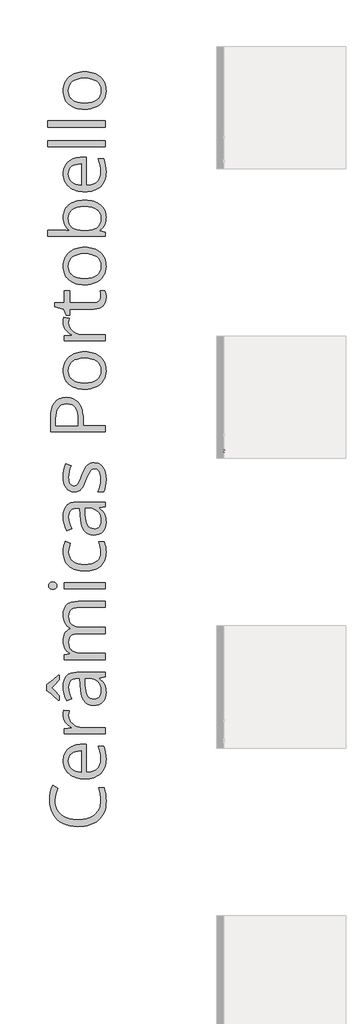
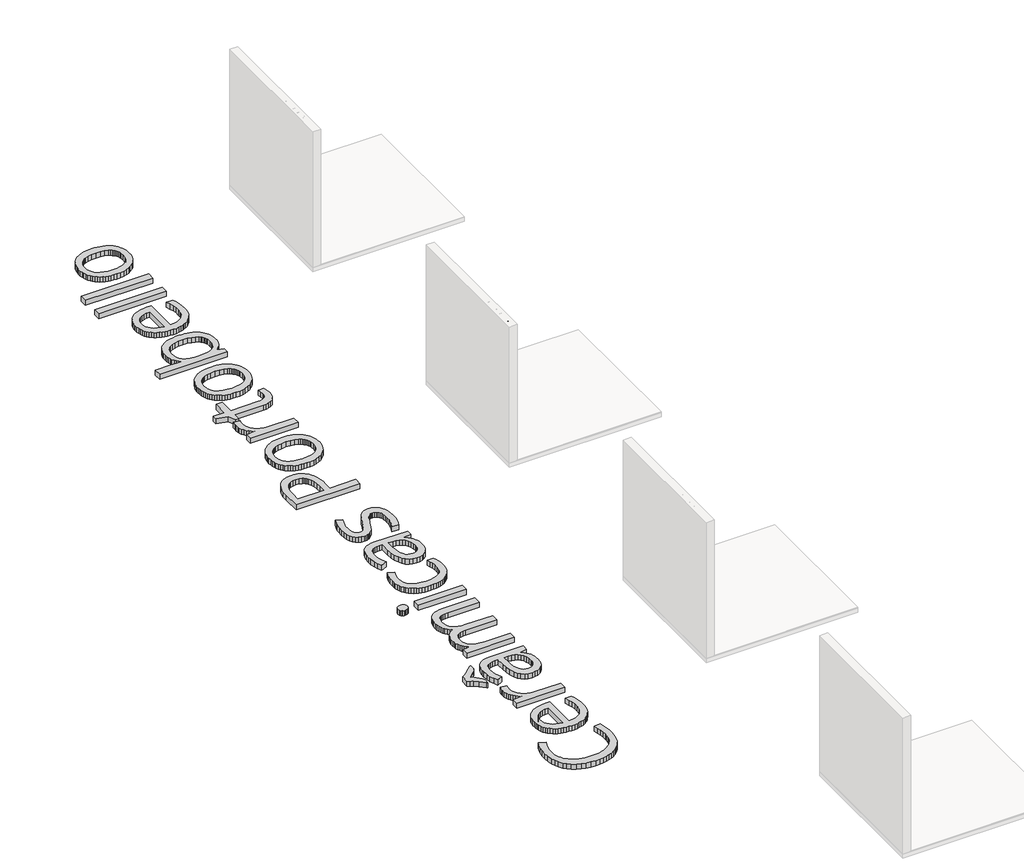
# One storey, part 7 of 14: 2 proxies.
"""IFC4 building model written with IfcOpenShell, lengths in millimetres."""

from ifc_helpers import new_model, si_unit, frame, origin, origin_with_axes, place, context, project, spatial, polyline, outline, extrude, element, save

model = new_model("IFC4")

# Units and contexts
model_context = context("Model", 3, world=origin())
ifc_project = project(units=[si_unit("LENGTHUNIT", "METRE", prefix="MILLI")], contexts=[model_context])

# Site, building, storey
site = spatial("IfcSite", under=ifc_project)
building = spatial("IfcBuilding", under=site)
storey = spatial("IfcBuildingStorey", under=building, Name="PORTOBELLO - SHOWROOM", Elevation=0.0)

# Proxies
placement = place(None, origin())
element("IfcBuildingElementProxy", 1, Name="10mm Arial", ObjectType="10mm Arial", at=placement, inside=storey, context=model_context, shape_type="SweptSolid", body=[
    extrude(outline(polyline([(3702.0552811, 2558.2261649), (3702.0552811, 2658.6824751), (3715.4952367, 2658.6824751), (3767.9797347, 2579.0973368), (3767.9797347, 2658.6824751), (3780.5367734, 2658.6824751), (3780.5367734, 2558.2261649), (3767.0968179, 2558.2261649), (3714.6123199, 2637.8358287), (3714.6123199, 2558.2261649), (3702.0552811, 2558.2261649)])), frame((184113.9473279, 0.0, 0.0), z_axis=(1.0, 0.0, 0.0), x_axis=(0.0, 1.0, 0.0)), (0.0, 0.0, 1.0), 20.0),
    extrude(outline(polyline([(3848.0308568, 2558.2261649), (3848.0308568, 2570.905831), (3838.1961448, 2560.2188591), (3825.3693259, 2556.6565351), (3813.5603139, 2559.1581327), (3805.4178591, 2565.436652), (3801.6777254, 2574.6827529), (3800.9419614, 2586.3568748), (3800.9419614, 2631.9987677), (3813.4990002, 2631.9987677), (3813.4990002, 2592.2675122), (3814.2592897, 2579.4652188), (3819.2256966, 2571.9481634), (3828.582162, 2569.2135739), (3839.0667989, 2572.009477), (3845.9952431, 2579.6246343), (3848.0308568, 2593.6164129), (3848.0308568, 2631.9987677), (3860.5878956, 2631.9987677), (3860.5878956, 2558.2261649), (3848.0308568, 2558.2261649)])), frame((184113.9473279, 0.0, 0.0), z_axis=(1.0, 0.0, 0.0), x_axis=(0.0, 1.0, 0.0)), (0.0, 0.0, 1.0), 20.0),
    extrude(outline(polyline([(3923.3730894, 2558.2261649), (3923.3730894, 2570.0719652), (3915.0650877, 2560.0103926), (3903.5810381, 2556.6565351), (3888.0318924, 2561.5125774), (3877.0444835, 2575.0628976), (3873.1449344, 2595.0388899), (3876.7379152, 2615.027145), (3887.5045949, 2628.7859316), (3903.5319872, 2633.5683975), (3915.1080073, 2630.147095), (3923.3730894, 2621.2566134), (3923.3730894, 2658.6824751), (3935.9301282, 2658.6824751), (3935.9301282, 2558.2261649), (3923.3730894, 2558.2261649)]), holes=[polyline([(3885.7019731, 2595.0879409), (3887.1183188, 2583.7295843), (3891.3673559, 2575.6515088), (3897.541642, 2570.8230576), (3904.733735, 2569.2135739), (3911.9227623, 2570.7494812), (3917.9406986, 2575.3572032), (3922.0149917, 2583.122579), (3923.3730894, 2594.1314477), (3921.9904663, 2606.1673203), (3917.8425968, 2614.5121102), (3911.6713763, 2619.3865466), (3904.2187002, 2621.0113588), (3896.9530308, 2619.450926), (3890.9994739, 2614.7696276), (3887.0263483, 2606.7283403), (3885.7019731, 2595.0879409)])]), frame((184113.9473279, 0.0, 0.0), z_axis=(1.0, 0.0, 0.0), x_axis=(0.0, 1.0, 0.0)), (0.0, 0.0, 1.0), 20.0),
    extrude(outline(polyline([(4006.4163185, 2580.2009828), (4018.7281026, 2578.6313529), (4014.2920589, 2569.3545953), (4007.2133961, 2562.4200197), (3997.6515299, 2558.0974062), (3985.7658758, 2556.6565351), (3971.0322019, 2559.1428042), (3959.6953051, 2566.6016117), (3952.4664239, 2578.5485795), (3950.0567968, 2594.4993297), (3952.4909494, 2610.9865744), (3959.793407, 2623.3167526), (3970.9770196, 2631.0054863), (3985.0546373, 2633.5683975), (3998.6938623, 2631.0116177), (4009.5923664, 2623.3412781), (4016.7384741, 2611.0356253), (4019.1205101, 2594.5729061), (4019.0469337, 2591.1883917), (3962.6138356, 2591.1883917), (3964.787405, 2581.7890067), (3969.8365854, 2574.8789566), (3977.1237146, 2570.6299195), (3986.0111305, 2569.2135739), (3998.3229146, 2571.8377988), (4006.4163185, 2580.2009828)]), holes=[polyline([(3962.6138356, 2603.7454305), (4006.5634713, 2603.7454305), (4001.5357507, 2615.1252469), (3994.214899, 2619.5398308), (3985.0055864, 2621.0113588), (3969.5422798, 2616.314732), (3964.6770404, 2610.8240932), (3962.6138356, 2603.7454305)])]), frame((184113.9473279, 0.0, 0.0), z_axis=(1.0, 0.0, 0.0), x_axis=(0.0, 1.0, 0.0)), (0.0, 0.0, 1.0), 20.0),
])
element("IfcBuildingElementProxy", 2, Name="1200mm OpenSans", ObjectType="1200mm OpenSans", at=placement, inside=storey, context=model_context, shape_type="SweptSolid", body=[
    extrude(outline(polyline([(180385.3489244, -3979.3943887), (180387.4699717, -4027.5784991), (180393.8331136, -4073.15989), (180404.4383501, -4116.1385616), (180419.2856812, -4156.5145137), (180438.3751069, -4194.2877465), (180461.7066272, -4229.4582599), (180489.2802421, -4262.0260538), (180521.0959515, -4291.9911284), (180556.6016636, -4318.8633611), (180595.2452863, -4342.1526295), (180637.0268196, -4361.8589334), (180681.9462635, -4377.9822731), (180730.003618, -4390.5226483), (180781.1988832, -4399.4800592), (180835.5320589, -4404.8545058), (180893.0031453, -4406.6459879), (180951.9445991, -4404.9192921), (181007.4439283, -4399.7392044), (181059.501133, -4391.1057251), (181108.1162131, -4379.0188539), (181153.2891686, -4363.4785911), (181195.0199996, -4344.4849364), (181233.308706, -4322.0378901), (181268.1552879, -4296.1374519), (181299.2104625, -4267.0427673), (181326.1249471, -4235.0129813), (181348.8987418, -4200.0480941), (181367.5318465, -4162.1481055), (181382.0242613, -4121.3130156), (181392.3759862, -4077.5428244), (181398.5870211, -4030.8375319), (181400.6573661, -3981.1971381), (181397.8405702, -3916.0953517), (181389.3901826, -3846.6218981), (181375.3062032, -3772.7767773), (181355.588632, -3694.5599893), (181472.4067908, -3694.5599893), (181491.4933997, -3760.5856847), (181505.1266917, -3833.9125151), (181513.306667, -3914.5404804), (181516.0333254, -4002.4695806), (181513.4953923, -4066.9178703), (181505.881593, -4127.5803864), (181493.1919276, -4184.4571289), (181475.426396, -4237.5480976), (181452.5849982, -4286.8532927), (181424.6677342, -4332.3727142), (181391.674604, -4374.1063619), (181353.6056077, -4412.054236), (181310.8607302, -4445.8557866), (181263.8399566, -4475.1504638), (181212.5432868, -4499.9382675), (181156.9707209, -4520.2191979), (181097.1222588, -4535.9932548), (181032.9979005, -4547.2604383), (180964.5976462, -4554.0207484), (180891.9214957, -4556.2741851), (180801.0854621, -4551.9363195), (180716.0632952, -4538.9227225), (180636.8549951, -4517.2333942), (180563.4605616, -4486.8683346), (180497.0179803, -4448.3120326), (180438.6652369, -4402.0489771), (180388.4023312, -4348.079168), (180346.2292633, -4286.4026054), (180312.8671328, -4217.9769998), (180289.0370397, -4143.760062), (180274.7389838, -4063.7517918), (180269.9729652, -3977.9521892), (180273.9615481, -3886.462659), (180285.927297, -3800.9222017), (180305.8702119, -3721.3308173), (180333.7902926, -3647.6885058), (180449.5268018, -3706.8186849), (180421.4489805, -3774.9626109), (180401.3933938, -3843.1065368), (180389.3600418, -3911.2504628), (180385.3489244, -3979.3943887)])), origin_with_axes(), (0.0, 0.0, 1.0), 100.0),
    extrude(outline(polyline([(181516.0333254, -3071.5298092), (181514.106637, -3120.1533397), (181508.3265718, -3166.1516164), (181498.6931299, -3209.5246394), (181485.2063113, -3250.2724086), (181467.8661158, -3288.394924), (181446.6725436, -3323.8921857), (181421.6255946, -3356.7641936), (181392.7252689, -3387.0109478), (181360.405353, -3414.1366922), (181325.0996334, -3437.6456706), (181286.8081102, -3457.5378831), (181245.5307833, -3473.8133297), (181201.2676529, -3486.4720104), (181154.0187188, -3495.5139251), (181103.783981, -3500.939074), (181050.5634397, -3502.747457), (180996.8161575, -3501.0686466), (180945.9025719, -3496.0322156), (180897.822683, -3487.6381639), (180852.5764908, -3475.8864914), (180810.1639952, -3460.7771983), (180770.5851963, -3442.3102846), (180733.840094, -3420.4857501), (180699.9286884, -3395.3035949), (180669.465041, -3367.2933767), (180643.0632132, -3336.984653), (180620.723205, -3304.3774239), (180602.4450166, -3269.4716893), (180588.2286478, -3232.2674493), (180578.0740986, -3192.7647039), (180571.9813691, -3150.963453), (180569.9504593, -3106.8636967), (180571.7475751, -3065.5187668), (180577.1389224, -3026.393472), (180586.1245012, -2989.4878123), (180598.7043116, -2954.8017879), (180614.8783536, -2922.3353985), (180634.6466271, -2892.0886444), (180658.0091321, -2864.0615254), (180684.9658687, -2838.2540415), (180714.8689738, -2815.0999794), (180747.0705843, -2795.0331255), (180781.5707002, -2778.0534799), (180818.3693216, -2764.1610427), (180857.4664484, -2753.3558137), (180898.8620807, -2745.6377929), (180942.5562184, -2741.0069805), (180988.5488616, -2739.4633764), (181077.6046801, -2739.4633764), (181077.6046801, -3361.051357), (181152.1483663, -3354.5501921), (181217.1374809, -3339.012746), (181272.5720238, -3314.4390187), (181296.7063309, -3298.7635497), (181318.4519951, -3280.8290103), (181337.7188789, -3260.7987748), (181354.4168449, -3238.8362173), (181380.1060234, -3189.1141364), (181395.5195304, -3131.6627676), (181400.6573661, -3066.4821109), (181396.8490581, -2993.853846), (181385.424134, -2921.6311996), (181366.3825938, -2849.8141718), (181339.7244376, -2778.4027626), (181459.4269954, -2778.4027626), (181485.4316549, -2848.8902627), (181502.873255, -2915.4117143), (181512.7433078, -2986.7104516), (181516.0333254, -3071.5298092)]), holes=[polyline([(180685.3264186, -3108.3058962), (180689.9234294, -3159.8307264), (180703.7144621, -3205.8797055), (180726.6995165, -3246.4528334), (180758.8785926, -3281.55011), (180799.1700409, -3310.585642), (180846.4922117, -3332.9735356), (180900.845105, -3348.713791), (180962.2287208, -3357.8064081), (180962.2287208, -2885.8466247), (180899.0874244, -2889.4521234), (180843.7880876, -2900.2686196), (180796.3307106, -2918.2961132), (180756.7152934, -2943.5346043), (180725.4826606, -2975.4658024), (180703.1736373, -3013.5714171), (180689.7882232, -3057.8514484), (180685.3264186, -3108.3058962)])]), origin_with_axes(), (0.0, 0.0, 1.0), 100.0),
    extrude(outline(polyline([(180569.9504593, -2092.2763548), (180572.203896, -2034.7686501), (180578.9642061, -1983.3902932), (180697.5851142, -2002.4994365), (180688.3910925, -2055.6805427), (180685.3264186, -2102.0112014), (180690.9712775, -2155.338781), (180707.9058544, -2204.6327089), (180736.1301491, -2249.8929851), (180775.6441617, -2291.1196096), (180823.5860276, -2325.4281834), (180877.0938821, -2349.9343076), (180936.1677254, -2364.6379821), (181000.8075572, -2369.5392069), (181492.9581335, -2369.5392069), (181492.9581335, -2505.8270588), (180593.0256511, -2505.8270588), (180593.0256511, -2393.3354985), (180754.5519941, -2377.831854), (180754.5519941, -2371.3419563), (180712.7507433, -2344.6387313), (180676.0422593, -2315.3665886), (180644.4265424, -2283.5255279), (180617.9035924, -2249.1155494), (180596.9240966, -2212.5422717), (180581.9387426, -2174.2113134), (180572.9475301, -2134.1226744), (180569.9504593, -2092.2763548)])), origin_with_axes(), (0.0, 0.0, 1.0), 100.0),
    extrude(outline(polyline([(181492.9581335, -1252.916251), (181361.35743, -1280.3180414), (181361.35743, -1287.1684889), (181402.9558715, -1321.2066504), (181437.2531782, -1355.1772087), (181464.2493499, -1389.0801639), (181483.9443867, -1422.915516), (181497.9832974, -1458.8240299), (181508.0110907, -1498.9464705), (181514.0277667, -1543.2828376), (181516.0333254, -1591.8331314), (181511.5602535, -1655.9434057), (181498.1410379, -1712.7074763), (181475.7756786, -1762.1253432), (181444.4641756, -1804.1970065), (181404.9050943, -1837.7957477), (181357.797, -1861.7948486), (181303.1398927, -1876.1943092), (181240.9337725, -1880.9941294), (181174.384153, -1874.0873459), (181116.2511196, -1853.3669954), (181066.5346723, -1818.8330779), (181025.2348111, -1770.4855934), (180992.351536, -1708.3245419), (180967.884847, -1632.3499234), (180951.834744, -1542.5617379), (180944.2012272, -1438.9599854), (180939.153529, -1284.28409), (180885.0710481, -1284.28409), (180837.3770602, -1287.1684889), (180796.3307106, -1295.8216859), (180761.9319993, -1310.2436808), (180734.1809263, -1330.4344737), (180712.8070792, -1356.9799581), (180697.5400455, -1390.4660275), (180688.3798253, -1430.892682), (180685.3264186, -1478.2599215), (180689.653017, -1537.2548944), (180702.6328125, -1599.9455036), (180724.2658048, -1666.3317489), (180754.5519941, -1736.4136304), (180649.2714313, -1778.9585154), (180616.1459117, -1708.3808778), (180591.0426268, -1631.4936174), (180575.2235012, -1551.2712707), (180569.9504593, -1470.6883742), (180574.4573327, -1394.488412), (180587.9779529, -1328.857068), (180610.51232, -1273.7943421), (180625.1596586, -1250.226211), (180642.0604338, -1229.3002344), (180661.4456231, -1210.9206413), (180683.5462036, -1194.9916605), (180708.3621753, -1181.5132923), (180735.8935382, -1170.4855364), (180799.1024378, -1155.7818619), (180873.1729023, -1150.8806371), (181492.9581335, -1150.8806371), (181492.9581335, -1252.916251)]), holes=[polyline([(181400.6573661, -1564.791891), (181396.2969661, -1503.5434813), (181383.215766, -1449.2356567), (181361.4137659, -1401.8684172), (181330.8909657, -1361.4417627), (181292.5262058, -1329.104946), (181247.1983265, -1306.0072198), (181194.9073278, -1292.1485841), (181135.6532096, -1287.5290388), (181054.5294883, -1287.5290388), (181060.2982862, -1426.3407398), (181065.6163968, -1503.1603971), (181075.8019308, -1568.4875272), (181090.8548879, -1622.32213), (181110.7752684, -1664.6642057), (181136.2165688, -1696.6855413), (181167.8322858, -1719.5579238), (181205.6224193, -1733.2813534), (181249.5869694, -1737.8558299), (181284.3349634, -1735.0052324), (181314.6662214, -1726.4534402), (181340.5807436, -1712.200453), (181362.0785297, -1692.246271), (181378.9567706, -1667.1767876), (181391.012657, -1637.5778965), (181398.2461888, -1603.4495976), (181400.6573661, -1564.791891)])]), origin_with_axes(), (0.0, 0.0, 1.0), 100.0),
    extrude(outline(polyline([(180458.1799987, -1762.7337711), (180358.6682339, -1674.3990523), (180289.4426583, -1617.0716225), (180240.2276007, -1581.0166352), (180200.7473896, -1556.4992439), (180200.7473896, -1420.5719419), (180241.3092503, -1395.9193443), (180292.3270573, -1358.0165389), (180361.9131827, -1299.021566), (180458.1799987, -1211.0924658), (180477.6496919, -1211.0924658), (180477.6496919, -1308.4409314), (180449.9324204, -1346.7944242), (180414.0126393, -1389.7449277), (180317.5655484, -1489.4369676), (180415.2745639, -1589.9402446), (180450.8788638, -1632.0119079), (180477.6496919, -1668.6302543), (180477.6496919, -1762.7337711), (180458.1799987, -1762.7337711)])), origin_with_axes(), (0.0, 0.0, 1.0), 100.0),
    extrude(outline(polyline([(181492.9581335, 282.665657), (180902.377442, 282.665657), (180851.5061084, 279.781258), (180807.4176192, 271.1280611), (180770.1119746, 256.7060661), (180739.5891744, 236.5152733), (180715.8492187, 210.2402013), (180698.8921075, 177.5653691), (180688.7178408, 138.4907766), (180685.3264186, 93.0164239), (180689.9346966, 33.3679543), (180703.7595308, -17.9427994), (180726.8009211, -60.9158374), (180759.0588675, -95.5511595), (180800.89392, -122.2093157), (180852.6666283, -141.2508559), (180914.3769924, -152.67578), (180986.0250124, -156.484088), (181492.9581335, -156.484088), (181492.9581335, -293.1324898), (180902.377442, -293.1324898), (180851.5061084, -296.0168888), (180807.4176192, -304.6700857), (180770.1119746, -319.0920806), (180739.5891744, -339.2828735), (180715.8492187, -365.6030142), (180698.8921075, -398.4130526), (180688.7178408, -437.7129888), (180685.3264186, -483.5028226), (180690.1713075, -543.5569108), (180704.7059742, -595.0028707), (180728.9304188, -637.8407025), (180744.6763078, -656.0315703), (180762.8446412, -672.070406), (180807.7781691, -698.2553406), (180865.0605301, -716.9588652), (180934.6917243, -728.18098), (181016.6717516, -731.9216849), (181492.9581335, -731.9216849), (181492.9581335, -868.2095368), (180593.0256511, -868.2095368), (180593.0256511, -757.160176), (180708.4016104, -735.1666338), (180708.4016104, -728.6767361), (180677.5633291, -707.2352858), (180650.3080122, -681.8503213), (180626.6356596, -652.5218426), (180606.5462714, -619.2498497), (180590.5356036, -582.9582516), (180579.0994123, -544.5709573), (180572.2376975, -504.0879669), (180569.9504593, -461.5092804), (180572.3165678, -410.8858248), (180579.4148935, -364.8368457), (180591.2454362, -323.3623432), (180607.8081959, -286.4623171), (180629.1031728, -254.1367676), (180655.1303667, -226.3856946), (180685.8897777, -203.2090981), (180721.3814058, -184.6069781), (180721.3814058, -178.1170804), (180688.2333519, -155.6615836), (180658.7358655, -128.6766791), (180632.8889465, -97.1623668), (180610.6925949, -61.1186467), (180592.8679106, -21.4694279), (180580.1359932, 20.8613806), (180572.4968428, 65.8737788), (180569.9504593, 113.5677667), (180574.8854857, 185.3735273), (180589.6905648, 247.5571131), (180600.7943742, 275.0405905), (180614.3656967, 300.1185243), (180630.4045325, 322.7909143), (180648.9108814, 343.0577607), (180670.1326216, 360.9303305), (180694.317631, 376.4198911), (180721.4659097, 389.5264423), (180751.5774577, 400.2499842), (180820.6903614, 414.5480401), (180901.6563422, 419.3140588), (181492.9581335, 419.3140588), (181492.9581335, 282.665657)])), origin_with_axes(), (0.0, 0.0, 1.0), 100.0),
    extrude(outline(polyline([(181492.9581335, 833.2253127), (181492.9581335, 696.9374608), (180593.0256511, 696.9374608), (180593.0256511, 833.2253127), (181492.9581335, 833.2253127)])), origin_with_axes(), (0.0, 0.0, 1.0), 100.0),
    extrude(outline(polyline([(180338.8379909, 685.3998648), (180316.6303721, 686.8420643), (180297.6000992, 691.1686628), (180281.747172, 698.3796603), (180269.0715905, 708.4750567), (180252.4412276, 734.4346475), (180246.8977733, 766.1630363), (180252.5313651, 796.7196381), (180269.4321404, 822.7693664), (180282.2203937, 833.1802439), (180298.0507865, 840.6165851), (180316.9233189, 845.0783897), (180338.8379909, 846.565658), (180360.7751972, 845.0783897), (180379.7153327, 840.6165851), (180395.6583974, 833.1802439), (180408.6043912, 822.7693664), (180425.7755789, 796.7196381), (180431.4993082, 766.1630363), (180425.7755789, 734.4346475), (180418.6209174, 720.7337524), (180408.6043912, 708.4750567), (180395.6583974, 698.3796603), (180379.7153327, 691.1686628), (180360.7751972, 686.8420643), (180338.8379909, 685.3998648)])), origin_with_axes(), (0.0, 0.0, 1.0), 100.0),
    extrude(outline(polyline([(181516.0333254, 1503.1269762), (181514.1263546, 1455.2132783), (181508.4054421, 1410.0825747), (181498.8705881, 1367.7348654), (181485.5217924, 1328.1701505), (181468.3590551, 1291.3884299), (181447.3823762, 1257.3897036), (181422.5917556, 1226.1739716), (181393.9871935, 1197.741234), (181361.895438, 1172.3900711), (181326.6432375, 1150.4190632), (181288.2305921, 1131.8282104), (181246.6575017, 1116.6175126), (181201.9239663, 1104.7869699), (181154.029986, 1096.3365823), (181102.9755606, 1091.2663497), (181048.7606903, 1089.5762722), (180993.1486892, 1091.2917009), (180940.7872706, 1096.437987), (180891.6764344, 1105.0151304), (180845.8161807, 1117.0231313), (180803.2065094, 1132.4619895), (180763.8474205, 1151.3317051), (180727.7389141, 1173.6322781), (180694.8809902, 1199.3637084), (180665.600397, 1228.266851), (180640.2238829, 1260.0825604), (180618.7514479, 1294.8108369), (180601.183092, 1332.4516802), (180587.5188152, 1373.0050905), (180577.7586175, 1416.4710678), (180571.9024988, 1462.8496119), (180569.9504593, 1512.140723), (180573.2855456, 1577.7157312), (180583.2908046, 1643.2006018), (180597.802937, 1701.5646124), (180614.6586435, 1745.7770406), (180727.5107537, 1703.5927055), (180710.9705283, 1655.7747786), (180697.4048393, 1603.9006657), (180688.3460238, 1553.1082023), (180685.3264186, 1508.5352243), (180690.9656439, 1443.5517433), (180707.88332, 1387.2327265), (180736.0794468, 1339.5781738), (180775.5540242, 1300.5880852), (180826.3070524, 1270.2624608), (180888.3385313, 1248.6013004), (180961.6484609, 1235.6046042), (181046.2368412, 1231.2723722), (181126.8873408, 1235.497566), (181197.5776503, 1248.1731475), (181258.3077695, 1269.2991166), (181309.0776984, 1298.8754733), (181330.541683, 1316.7931119), (181349.143803, 1336.7444771), (181364.8840584, 1358.729569), (181377.7624492, 1382.7483875), (181387.7789753, 1408.8009326), (181394.9336369, 1436.8872043), (181400.6573661, 1499.1609276), (181397.6152265, 1556.465823), (181388.4888079, 1614.4467494), (181373.2781101, 1673.1037069), (181351.9831333, 1732.4366953), (181470.6040414, 1732.4366953), (181490.4793531, 1683.8976687), (181504.6760044, 1629.4997066), (181513.1939951, 1569.2428091), (181516.0333254, 1503.1269762)])), origin_with_axes(), (0.0, 0.0, 1.0), 100.0),
    extrude(outline(polyline([(181492.9581335, 2508.3400214), (181361.35743, 2480.9382311), (181361.35743, 2474.0877835), (181402.9558715, 2440.0496221), (181437.2531782, 2406.0790638), (181464.2493499, 2372.1761086), (181483.9443867, 2338.3407564), (181497.9832974, 2302.4322426), (181508.0110907, 2262.309802), (181514.0277667, 2217.9734349), (181516.0333254, 2169.4231411), (181511.5602535, 2105.3128668), (181498.1410379, 2048.5487962), (181475.7756786, 1999.1309293), (181444.4641756, 1957.059266), (181404.9050943, 1923.4605247), (181357.797, 1899.4614238), (181303.1398927, 1885.0619633), (181240.9337725, 1880.2621431), (181174.384153, 1887.1689266), (181116.2511196, 1907.8892771), (181066.5346723, 1942.4231946), (181025.2348111, 1990.7706791), (180992.351536, 2052.9317306), (180967.884847, 2128.9063491), (180951.834744, 2218.6945346), (180944.2012272, 2322.2962871), (180939.153529, 2476.9721825), (180885.0710481, 2476.9721825), (180837.3770602, 2474.0877835), (180796.3307106, 2465.4345866), (180761.9319993, 2451.0125917), (180734.1809263, 2430.8217988), (180712.8070792, 2404.2763144), (180697.5400455, 2370.790245), (180688.3798253, 2330.3635905), (180685.3264186, 2282.996351), (180689.653017, 2224.001378), (180702.6328125, 2161.3107689), (180724.2658048, 2094.9245236), (180754.5519941, 2024.8426421), (180649.2714313, 1982.2977571), (180616.1459117, 2052.8753947), (180591.0426268, 2129.7626551), (180575.2235012, 2209.9850017), (180569.9504593, 2290.5678983), (180574.4573327, 2366.7678605), (180587.9779529, 2432.3992045), (180610.51232, 2487.4619304), (180625.1596586, 2511.0300615), (180642.0604338, 2531.9560381), (180661.4456231, 2550.3356312), (180683.5462036, 2566.2646119), (180708.3621753, 2579.7429802), (180735.8935382, 2590.7707361), (180799.1024378, 2605.4744106), (180873.1729023, 2610.3756354), (181492.9581335, 2610.3756354), (181492.9581335, 2508.3400214)]), holes=[polyline([(181400.6573661, 2196.4643815), (181396.2969661, 2257.7127912), (181383.215766, 2312.0206157), (181361.4137659, 2359.3878553), (181330.8909657, 2399.8145097), (181292.5262058, 2432.1513265), (181247.1983265, 2455.2490527), (181194.9073278, 2469.1076884), (181135.6532096, 2473.7272337), (181054.5294883, 2473.7272337), (181060.2982862, 2334.9155327), (181065.6163968, 2258.0958754), (181075.8019308, 2192.7687453), (181090.8548879, 2138.9341424), (181110.7752684, 2096.5920668), (181136.2165688, 2064.5707312), (181167.8322858, 2041.6983486), (181205.6224193, 2027.9749191), (181249.5869694, 2023.4004426), (181284.3349634, 2026.25104), (181314.6662214, 2034.8028323), (181340.5807436, 2049.0558195), (181362.0785297, 2069.0100015), (181378.9567706, 2094.0794848), (181391.012657, 2123.678376), (181398.2461888, 2157.8066748), (181400.6573661, 2196.4643815)])]), origin_with_axes(), (0.0, 0.0, 1.0), 100.0),
    extrude(outline(polyline([(181250.3080692, 3477.8586293), (181310.463562, 3471.9658923), (181337.7949324, 3464.599971), (181363.2953855, 3454.2876813), (181386.9649213, 3441.0290231), (181408.8035398, 3424.8239964), (181428.8112409, 3405.6726012), (181446.9880247, 3383.5748375), (181477.1953438, 3331.6894574), (181498.7720002, 3270.3171088), (181511.7179941, 3199.4577916), (181516.0333254, 3119.1115059), (181512.4728954, 3034.089339), (181501.7916054, 2958.9372249), (181483.9894554, 2893.6551636), (181459.0664455, 2838.243155), (181331.4317905, 2838.243155), (181360.1405741, 2905.9363936), (181382.0890477, 2978.4970555), (181396.0152865, 3052.0492295), (181400.6573661, 3122.7170046), (181398.5166012, 3173.4982007), (181392.0943066, 3218.0373772), (181381.3904823, 3256.334534), (181366.4051282, 3288.3896711), (181347.0255725, 3313.7070325), (181323.1391435, 3331.7908621), (181294.745841, 3342.6411598), (181261.8456651, 3346.2579257), (181236.1339523, 3343.3847939), (181212.3601951, 3334.7653985), (181190.5243934, 3320.3997395), (181170.6265473, 3300.2878169), (181150.841373, 3271.8607129), (181129.3435869, 3232.5495096), (181081.2101788, 3121.2748051), (181036.6822696, 3013.0197058), (180998.2837081, 2941.3604186), (180960.5611777, 2894.8044163), (180939.9084303, 2876.6304493), (180918.0613614, 2861.8591717), (180894.5016807, 2850.4229804), (180868.7110976, 2842.2542723), (180840.6896122, 2837.3530475), (180810.4372244, 2835.7193059), (180757.6617368, 2841.3528977), (180710.7451846, 2858.2536729), (180669.6875678, 2886.4216317), (180634.4888865, 2925.8567741), (180606.2533246, 2975.1169004), (180586.0850661, 3032.7598114), (180573.984111, 3098.7855068), (180569.9504593, 3173.1939868), (180573.6911642, 3245.8222518), (180584.913279, 3317.6843483), (180603.6168037, 3388.7802763), (180629.8017382, 3459.1100359), (180741.2116488, 3410.0752532), (180716.7618606, 3343.3735267), (180699.2977261, 3279.9167491), (180688.8192455, 3219.7049204), (180685.3264186, 3162.7380405), (180687.253107, 3116.8806035), (180693.0331721, 3077.0173082), (180702.666614, 3043.1481546), (180716.1534327, 3015.2731425), (180733.0429408, 2993.504944), (180752.884451, 2977.9562307), (180775.6779632, 2968.6270027), (180801.4234776, 2965.5172601), (180835.4503718, 2970.1593397), (180863.9788805, 2984.0855785), (180889.1272341, 3008.3776262), (180913.0136632, 3044.1171323), (180941.5421719, 3104.5993735), (180980.6167643, 3203.1196262), (181010.2269226, 3277.1788235), (181039.9272184, 3338.1906223), (181069.7176517, 3386.1550226), (181099.5982224, 3421.0720243), (181131.4618174, 3445.916164), (181167.2013235, 3463.661978), (181206.8167408, 3474.3094664), (181250.3080692, 3477.8586293)])), origin_with_axes(), (0.0, 0.0, 1.0), 100.0),
    extrude(outline(polyline([(180636.6521858, 4922.9425192), (180680.0730943, 4920.9932965), (180720.9194513, 4915.1456282), (180759.191257, 4905.3995145), (180794.8885112, 4891.7549552), (180828.0112139, 4874.2119505), (180858.5593652, 4852.7705002), (180886.5329651, 4827.4306045), (180911.9320136, 4798.1922632), (180934.5368005, 4765.3202553), (180954.1276159, 4729.0793595), (180970.7044596, 4689.4695758), (180984.2673318, 4646.4909043), (180994.8162324, 4600.1433449), (181002.3511614, 4550.4268976), (181006.8721188, 4497.3415624), (181008.3791046, 4440.8873394), (181008.3791046, 4299.1912394), (181492.9581335, 4299.1912394), (181492.9581335, 4159.6584386), (180293.048157, 4159.6584386), (180293.048157, 4471.8946284), (180298.41697, 4577.6089778), (180314.5234088, 4669.2280806), (180341.3674736, 4746.7519369), (180378.9491642, 4810.1805465), (180427.2684807, 4859.5139096), (180486.3254232, 4894.752026), (180556.1199915, 4915.8948959), (180636.6521858, 4922.9425192)]), holes=[polyline([(180893.0031453, 4299.1912394), (180893.0031453, 4425.3836948), (180889.2849747, 4512.141008), (180878.130463, 4586.0086631), (180859.5396102, 4646.9866604), (180833.5124163, 4695.0749996), (180817.5130157, 4714.5953951), (180799.2601784, 4731.5130712), (180778.7539043, 4745.8280278), (180755.9941936, 4757.5402651), (180703.7144621, 4773.1565815), (180642.4209837, 4778.3620202), (180587.0653111, 4773.4607954), (180539.2586514, 4758.7571209), (180499.0010046, 4734.2509968), (180466.2923709, 4699.9424229), (180440.9750095, 4655.2905746), (180422.8911799, 4599.754627), (180412.0408822, 4533.3345802), (180408.4241163, 4456.030434), (180408.4241163, 4299.1912394), (180893.0031453, 4299.1912394)])]), origin_with_axes(), (0.0, 0.0, 1.0), 100.0),
    extrude(outline(polyline([(181042.2707926, 5930.3188637), (181096.5363652, 5928.5865342), (181147.7428976, 5923.3895458), (181195.8903895, 5914.7278985), (181240.9788412, 5902.6015922), (181283.0082525, 5887.010627), (181321.9786236, 5867.9550029), (181357.8899542, 5845.4347198), (181390.7422446, 5819.4497778), (181420.1073417, 5790.4170627), (181445.5570924, 5758.7534602), (181467.0914969, 5724.4589703), (181484.7105552, 5687.5335931), (181498.4142671, 5647.9773286), (181508.2026328, 5605.7901766), (181514.0756522, 5560.9721374), (181516.0333254, 5513.5232108), (181512.4390938, 5454.8324518), (181501.6563992, 5399.5443823), (181483.6852415, 5347.6590021), (181458.5256207, 5299.1763114), (181426.6507585, 5255.0652879), (181388.5338766, 5216.2949094), (181344.1749751, 5182.8651759), (181293.5740539, 5154.7760874), (181237.5761518, 5132.5346671), (181177.0263075, 5116.6479384), (181111.9245211, 5107.1159011), (181042.2707926, 5103.9385553), (180988.0164871, 5105.6568008), (180936.8437564, 5110.8115373), (180888.7526003, 5119.4027647), (180843.7430189, 5131.4304831), (180801.8150122, 5146.8946925), (180762.9685802, 5165.7953929), (180727.2037229, 5188.1325842), (180694.5204403, 5213.9062665), (180665.324351, 5242.7333556), (180640.0210736, 5274.2307671), (180618.6106081, 5308.3985011), (180601.0929546, 5345.2365577), (180587.4681129, 5384.7449367), (180577.7360831, 5426.9236382), (180571.8968652, 5471.7726622), (180569.9504593, 5519.2920087), (180571.941934, 5565.2254992), (180577.916358, 5608.7421787), (180587.8737315, 5649.8420474), (180601.8140543, 5688.5251053), (180619.7373265, 5724.7913522), (180641.6435481, 5758.6407883), (180667.532719, 5790.0734136), (180697.4048393, 5819.0892279), (180730.6740155, 5845.1586738), (180766.7543539, 5867.7521936), (180805.6458546, 5886.8697872), (180847.3485176, 5902.5114547), (180891.8623429, 5914.6771961), (180939.1873305, 5923.3670114), (180989.3234804, 5928.5809006), (181042.2707926, 5930.3188637)]), holes=[polyline([(181041.189143, 5245.6346553), (181123.7550638, 5249.9387194), (181195.8650384, 5262.8509117), (181257.5190666, 5284.3712323), (181284.4251009, 5298.3594406), (181308.7171485, 5314.499681), (181330.265637, 5332.7243504), (181348.9409937, 5352.9658456), (181364.7432186, 5375.2241666), (181377.6723117, 5399.4993135), (181387.728273, 5425.7912863), (181394.9111025, 5454.1000849), (181400.6573661, 5516.7681596), (181394.9336369, 5579.4587688), (181387.7789753, 5607.7957353), (181377.7624492, 5634.1271432), (181364.8840584, 5658.4529924), (181349.143803, 5680.773283), (181330.541683, 5701.0880149), (181309.0776984, 5719.3971881), (181284.8588874, 5735.6219324), (181257.9922883, 5749.6833774), (181196.3157257, 5771.3163698), (181124.0480106, 5784.2961652), (181041.189143, 5788.6227637), (180959.1753141, 5784.2961652), (180887.6399659, 5771.3163698), (180826.5830984, 5749.6833774), (180799.9840949, 5735.6219324), (180776.0047116, 5719.3971881), (180754.7519866, 5701.0598469), (180736.3329584, 5680.6606112), (180720.7476268, 5658.1994808), (180707.9959918, 5633.6764559), (180698.0780535, 5607.0915363), (180690.9938119, 5578.4447222), (180685.3264186, 5514.9654103), (180690.9149416, 5452.3536714), (180697.9005954, 5424.1152927), (180707.6805107, 5397.9219078), (180720.2546875, 5373.7735167), (180735.6231258, 5351.6701195), (180753.7858257, 5331.611716), (180774.742787, 5313.5983063), (180798.4658419, 5297.6693256), (180824.9268224, 5283.864209), (180886.0625602, 5262.6255681), (180958.1500004, 5249.8823835), (181041.189143, 5245.6346553)])]), origin_with_axes(), (0.0, 0.0, 1.0), 100.0),
    extrude(outline(polyline([(180569.9504593, 6583.995783), (180572.203896, 6641.5034877), (180578.9642061, 6692.8818445), (180697.5851142, 6673.7727013), (180688.3910925, 6620.591595), (180685.3264186, 6574.2609364), (180690.9712775, 6520.9333568), (180707.9058544, 6471.6394289), (180736.1301491, 6426.3791526), (180775.6441617, 6385.1525281), (180823.5860276, 6350.8439543), (180877.0938821, 6326.3378301), (180936.1677254, 6311.6341556), (181000.8075572, 6306.7329308), (181492.9581335, 6306.7329308), (181492.9581335, 6170.4450789), (180593.0256511, 6170.4450789), (180593.0256511, 6282.9366392), (180754.5519941, 6298.4402837), (180754.5519941, 6304.9301815), (180712.7507433, 6331.6334064), (180676.0422593, 6360.9055492), (180644.4265424, 6392.7466098), (180617.9035924, 6427.1565883), (180596.9240966, 6463.729866), (180581.9387426, 6502.0608244), (180572.9475301, 6542.1494634), (180569.9504593, 6583.995783)])), origin_with_axes(), (0.0, 0.0, 1.0), 100.0),
    extrude(outline(polyline([(181400.6573661, 7156.5489809), (181395.249118, 7227.2167559), (181384.072072, 7281.2992368), (181490.7948343, 7281.2992368), (181500.7099558, 7253.6270341), (181508.8223279, 7215.3186101), (181514.230576, 7173.9455122), (181516.0333254, 7137.0792877), (181511.7517956, 7075.2224502), (181498.9072064, 7021.613191), (181477.4995577, 6976.2515101), (181447.5288496, 6939.1374076), (181408.9950819, 6910.2708834), (181361.8982548, 6889.6519376), (181306.2383682, 6877.2805701), (181242.0154221, 6873.1567809), (180708.4016104, 6873.1567809), (180708.4016104, 6742.637727), (180640.9787842, 6742.637727), (180582.5697048, 6872.4356812), (180385.3489244, 6930.4842107), (180385.3489244, 7009.8051827), (180593.0256511, 7009.8051827), (180593.0256511, 7274.8093391), (180708.4016104, 7274.8093391), (180708.4016104, 7009.8051827), (181233.722775, 7009.8051827), (181271.7495194, 7012.2501615), (181305.0665811, 7019.585098), (181333.6739601, 7031.8099921), (181357.5716563, 7048.9248439), (181376.4216543, 7070.3212254), (181389.8859386, 7095.3907087), (181397.9645092, 7124.1332939), (181400.6573661, 7156.5489809)])), origin_with_axes(), (0.0, 0.0, 1.0), 100.0),
    extrude(outline(polyline([(181042.2707926, 8237.8380492), (181096.5363652, 8236.1057198), (181147.7428976, 8230.9087314), (181195.8903895, 8222.247084), (181240.9788412, 8210.1207778), (181283.0082525, 8194.5298126), (181321.9786236, 8175.4741884), (181357.8899542, 8152.9539054), (181390.7422446, 8126.9689634), (181420.1073417, 8097.9362482), (181445.5570924, 8066.2726457), (181467.0914969, 8031.9781559), (181484.7105552, 7995.0527787), (181498.4142671, 7955.4965141), (181508.2026328, 7913.3093622), (181514.0756522, 7868.491323), (181516.0333254, 7821.0423963), (181512.4390938, 7762.3516374), (181501.6563992, 7707.0635678), (181483.6852415, 7655.1781877), (181458.5256207, 7606.695497), (181426.6507585, 7562.5844735), (181388.5338766, 7523.814095), (181344.1749751, 7490.3843615), (181293.5740539, 7462.295273), (181237.5761518, 7440.0538527), (181177.0263075, 7424.1671239), (181111.9245211, 7414.6350867), (181042.2707926, 7411.4577409), (180988.0164871, 7413.1759864), (180936.8437564, 7418.3307229), (180888.7526003, 7426.9219503), (180843.7430189, 7438.9496687), (180801.8150122, 7454.4138781), (180762.9685802, 7473.3145785), (180727.2037229, 7495.6517698), (180694.5204403, 7521.4254521), (180665.324351, 7550.2525411), (180640.0210736, 7581.7499527), (180618.6106081, 7615.9176867), (180601.0929546, 7652.7557432), (180587.4681129, 7692.2641223), (180577.7360831, 7734.4428238), (180571.8968652, 7779.2918478), (180569.9504593, 7826.8111943), (180571.941934, 7872.7446847), (180577.916358, 7916.2613643), (180587.8737315, 7957.361233), (180601.8140543, 7996.0442908), (180619.7373265, 8032.3105378), (180641.6435481, 8066.1599739), (180667.532719, 8097.5925991), (180697.4048393, 8126.6084135), (180730.6740155, 8152.6778594), (180766.7543539, 8175.2713791), (180805.6458546, 8194.3889728), (180847.3485176, 8210.0306403), (180891.8623429, 8222.1963817), (180939.1873305, 8230.886197), (180989.3234804, 8236.1000862), (181042.2707926, 8237.8380492)]), holes=[polyline([(181041.189143, 7553.1538409), (181123.7550638, 7557.457905), (181195.8650384, 7570.3700973), (181257.5190666, 7591.8904178), (181284.4251009, 7605.8786262), (181308.7171485, 7622.0188666), (181330.265637, 7640.2435359), (181348.9409937, 7660.4850311), (181364.7432186, 7682.7433522), (181377.6723117, 7707.0184991), (181387.728273, 7733.3104718), (181394.9111025, 7761.6192704), (181400.6573661, 7824.2873452), (181394.9336369, 7886.9779543), (181387.7789753, 7915.3149209), (181377.7624492, 7941.6463288), (181364.8840584, 7965.972178), (181349.143803, 7988.2924686), (181330.541683, 8008.6072005), (181309.0776984, 8026.9163737), (181284.8588874, 8043.141118), (181257.9922883, 8057.202563), (181196.3157257, 8078.8355554), (181124.0480106, 8091.8153508), (181041.189143, 8096.1419493), (180959.1753141, 8091.8153508), (180887.6399659, 8078.8355554), (180826.5830984, 8057.202563), (180799.9840949, 8043.141118), (180776.0047116, 8026.9163737), (180754.7519866, 8008.5790325), (180736.3329584, 7988.1797967), (180720.7476268, 7965.7186664), (180707.9959918, 7941.1956414), (180698.0780535, 7914.6107219), (180690.9938119, 7885.9639078), (180685.3264186, 7822.4845958), (180690.9149416, 7759.872857), (180697.9005954, 7731.6344783), (180707.6805107, 7705.4410934), (180720.2546875, 7681.2927023), (180735.6231258, 7659.189305), (180753.7858257, 7639.1309016), (180774.742787, 7621.1174919), (180798.4658419, 7605.1885112), (180824.9268224, 7591.3833946), (180886.0625602, 7570.1447536), (180958.1500004, 7557.4015691), (181041.189143, 7553.1538409)])]), origin_with_axes(), (0.0, 0.0, 1.0), 100.0),
    extrude(outline(polyline([(180569.9504593, 8899.0865159), (180571.8743309, 8942.6313634), (180577.6459456, 8983.6692626), (180587.2653036, 9022.2002134), (180600.7324047, 9058.2242159), (180618.047249, 9091.7412701), (180639.2098364, 9122.751376), (180664.220167, 9151.2545335), (180693.0782408, 9177.2507427), (180725.4516759, 9200.4470568), (180761.0080903, 9220.550529), (180799.747484, 9237.5611593), (180841.6698571, 9251.4789477), (180886.7752096, 9262.3038943), (180935.0635414, 9270.035999), (180986.5348525, 9274.6752618), (181041.189143, 9276.2216827), (181095.9532885, 9274.6611778), (181147.5738898, 9269.9796631), (181196.0509469, 9262.1771385), (181241.3844598, 9251.2536041), (181283.5744285, 9237.2090598), (181322.620853, 9220.0435057), (181358.5237333, 9199.7569418), (181391.2830694, 9176.349368), (181420.5214106, 9150.1757007), (181445.8613064, 9121.5908561), (181467.3027566, 9090.5948342), (181484.8457614, 9057.1876351), (181498.4903206, 9021.3692586), (181508.2364344, 8983.1397049), (181514.0841026, 8942.498974), (181516.0333254, 8899.4470657), (181513.9714308, 8856.057142), (181507.785747, 8814.5826394), (181497.4762741, 8775.0235581), (181483.043012, 8737.3798979), (181464.3282202, 8702.1924838), (181441.174158, 8670.0021405), (181413.5808256, 8640.808868), (181381.5482228, 8614.6126663), (181381.5482228, 8604.5172698), (181492.9581335, 8575.67328), (181492.9581335, 8477.9642645), (180223.8225815, 8477.9642645), (180223.8225815, 8614.2521164), (180524.8817252, 8614.2521164), (180620.9682663, 8612.629642), (180706.5988611, 8607.7622187), (180706.5988611, 8614.2521164), (180674.5718919, 8639.7610199), (180646.8151853, 8668.1543224), (180623.3287412, 8699.4320238), (180604.1125597, 8733.5941243), (180589.1666408, 8770.6406237), (180578.4909844, 8810.5715221), (180572.0855906, 8853.3868195), (180569.9504593, 8899.0865159)]), holes=[polyline([(180685.3264186, 8879.9773726), (180690.4191855, 8814.2558911), (180705.6974864, 8758.4269968), (180717.156212, 8734.2222697), (180731.1613211, 8712.4906895), (180747.7128137, 8693.2322561), (180766.8106898, 8676.4469694), (180788.9225375, 8661.8700508), (180814.5159448, 8649.2367212), (180876.1474387, 8629.8008296), (180951.7051714, 8618.1392947), (181041.189143, 8614.2521164), (181130.9322597, 8618.2519665), (181206.9068782, 8630.251517), (181269.1129985, 8650.2507677), (181295.0528717, 8663.2502807), (181317.5506204, 8678.2497188), (181337.0287639, 8695.4518912), (181353.9098217, 8715.0596074), (181368.1937936, 8737.0728672), (181379.8806797, 8761.4916707), (181395.4631945, 8817.5459087), (181400.6573661, 8883.2223215), (181394.8322322, 8942.7919207), (181387.5508149, 8969.5261304), (181377.3568306, 8994.2266135), (181364.2502793, 9016.89337), (181348.2311612, 9037.5263998), (181329.299476, 9056.125703), (181307.455224, 9072.6912796), (181255.7726532, 9099.9015278), (181193.9270828, 9119.3374194), (181121.9185129, 9130.9989543), (181039.7469435, 9134.8861326), (180956.0205027, 9130.9989543), (180883.6739173, 9119.3374194), (180822.7071873, 9099.9015278), (180773.1203126, 9072.6912796), (180752.5436187, 9056.0750007), (180734.710484, 9037.3235905), (180719.6209084, 9016.437049), (180707.2748921, 8993.4153763), (180697.6724349, 8968.2585723), (180690.8135369, 8940.966637), (180685.3264186, 8879.9773726)])]), origin_with_axes(), (0.0, 0.0, 1.0), 100.0),
    extrude(outline(polyline([(181516.0333254, 9896.7280137), (181514.106637, 9848.1044832), (181508.3265718, 9802.1062065), (181498.6931299, 9758.7331835), (181485.2063113, 9717.9854143), (181467.8661158, 9679.8628989), (181446.6725436, 9644.3656372), (181421.6255946, 9611.4936293), (181392.7252689, 9581.2468751), (181360.405353, 9554.1211308), (181325.0996334, 9530.6121523), (181286.8081102, 9510.7199398), (181245.5307833, 9494.4444932), (181201.2676529, 9481.7858125), (181154.0187188, 9472.7438978), (181103.783981, 9467.3187489), (181050.5634397, 9465.5103659), (180996.8161575, 9467.1891763), (180945.9025719, 9472.2256073), (180897.822683, 9480.619659), (180852.5764908, 9492.3713315), (180810.1639952, 9507.4806246), (180770.5851963, 9525.9475384), (180733.840094, 9547.7720728), (180699.9286884, 9572.954228), (180669.465041, 9600.9644463), (180643.0632132, 9631.2731699), (180620.723205, 9663.880399), (180602.4450166, 9698.7861336), (180588.2286478, 9735.9903736), (180578.0740986, 9775.493119), (180571.9813691, 9817.2943699), (180569.9504593, 9861.3941262), (180571.7475751, 9902.7390562), (180577.1389224, 9941.8643509), (180586.1245012, 9978.7700106), (180598.7043116, 10013.456035), (180614.8783536, 10045.9224244), (180634.6466271, 10076.1691785), (180658.0091321, 10104.1962975), (180684.9658687, 10130.0037814), (180714.8689738, 10153.1578435), (180747.0705843, 10173.2246974), (180781.5707002, 10190.204343), (180818.3693216, 10204.0967803), (180857.4664484, 10214.9020093), (180898.8620807, 10222.62003), (180942.5562184, 10227.2508424), (180988.5488616, 10228.7944465), (181077.6046801, 10228.7944465), (181077.6046801, 9607.2064659), (181152.1483663, 9613.7076308), (181217.1374809, 9629.2450769), (181272.5720238, 9653.8188042), (181296.7063309, 9669.4942732), (181318.4519951, 9687.4288126), (181337.7188789, 9707.4590481), (181354.4168449, 9729.4216056), (181380.1060234, 9779.1436865), (181395.5195304, 9836.5950553), (181400.6573661, 9901.775712), (181396.8490581, 9974.403977), (181385.424134, 10046.6266233), (181366.3825938, 10118.4436511), (181339.7244376, 10189.8550603), (181459.4269954, 10189.8550603), (181485.4316549, 10119.3675602), (181502.873255, 10052.8461086), (181512.7433078, 9981.5473713), (181516.0333254, 9896.7280137)]), holes=[polyline([(180685.3264186, 9859.9519267), (180689.9234294, 9808.4270965), (180703.7144621, 9762.3781174), (180726.6995165, 9721.8049895), (180758.8785926, 9686.7077129), (180799.1700409, 9657.6721809), (180846.4922117, 9635.2842873), (180900.845105, 9619.5440319), (180962.2287208, 9610.4514148), (180962.2287208, 10082.4111982), (180899.0874244, 10078.8056995), (180843.7880876, 10067.9892033), (180796.3307106, 10049.9617097), (180756.7152934, 10024.7232186), (180725.4826606, 9992.7920205), (180703.1736373, 9954.6864058), (180689.7882232, 9910.4063745), (180685.3264186, 9859.9519267)])]), origin_with_axes(), (0.0, 0.0, 1.0), 100.0),
    extrude(outline(polyline([(181492.9581335, 10594.0314676), (181492.9581335, 10457.7436157), (180223.8225815, 10457.7436157), (180223.8225815, 10594.0314676), (181492.9581335, 10594.0314676)])), origin_with_axes(), (0.0, 0.0, 1.0), 100.0),
    extrude(outline(polyline([(181492.9581335, 11032.4601129), (181492.9581335, 10896.172261), (180223.8225815, 10896.172261), (180223.8225815, 11032.4601129), (181492.9581335, 11032.4601129)])), origin_with_axes(), (0.0, 0.0, 1.0), 100.0),
    extrude(outline(polyline([(181042.2707926, 12114.470281), (181096.5363652, 12112.7379515), (181147.7428976, 12107.5409631), (181195.8903895, 12098.8793158), (181240.9788412, 12086.7530095), (181283.0082525, 12071.1620443), (181321.9786236, 12052.1064202), (181357.8899542, 12029.5861371), (181390.7422446, 12003.6011951), (181420.1073417, 11974.56848), (181445.5570924, 11942.9048775), (181467.0914969, 11908.6103876), (181484.7105552, 11871.6850104), (181498.4142671, 11832.1287459), (181508.2026328, 11789.941594), (181514.0756522, 11745.1235547), (181516.0333254, 11697.6746281), (181512.4390938, 11638.9838691), (181501.6563992, 11583.6957996), (181483.6852415, 11531.8104195), (181458.5256207, 11483.3277288), (181426.6507585, 11439.2167053), (181388.5338766, 11400.4463268), (181344.1749751, 11367.0165932), (181293.5740539, 11338.9275047), (181237.5761518, 11316.6860844), (181177.0263075, 11300.7993557), (181111.9245211, 11291.2673184), (181042.2707926, 11288.0899727), (180988.0164871, 11289.8082182), (180936.8437564, 11294.9629546), (180888.7526003, 11303.5541821), (180843.7430189, 11315.5819005), (180801.8150122, 11331.0461098), (180762.9685802, 11349.9468102), (180727.2037229, 11372.2840015), (180694.5204403, 11398.0576839), (180665.324351, 11426.8847729), (180640.0210736, 11458.3821844), (180618.6106081, 11492.5499185), (180601.0929546, 11529.387975), (180587.4681129, 11568.896354), (180577.7360831, 11611.0750555), (180571.8968652, 11655.9240796), (180569.9504593, 11703.4434261), (180571.941934, 11749.3769165), (180577.916358, 11792.8935961), (180587.8737315, 11833.9934648), (180601.8140543, 11872.6765226), (180619.7373265, 11908.9427696), (180641.6435481, 11942.7922057), (180667.532719, 11974.2248309), (180697.4048393, 12003.2406453), (180730.6740155, 12029.3100911), (180766.7543539, 12051.9036109), (180805.6458546, 12071.0212045), (180847.3485176, 12086.6628721), (180891.8623429, 12098.8286135), (180939.1873305, 12107.5184288), (180989.3234804, 12112.7323179), (181042.2707926, 12114.470281)]), holes=[polyline([(181041.189143, 11429.7860727), (181123.7550638, 11434.0901368), (181195.8650384, 11447.0023291), (181257.5190666, 11468.5226496), (181284.4251009, 11482.510858), (181308.7171485, 11498.6510983), (181330.265637, 11516.8757677), (181348.9409937, 11537.1172629), (181364.7432186, 11559.3755839), (181377.6723117, 11583.6507308), (181387.728273, 11609.9427036), (181394.9111025, 11638.2515022), (181400.6573661, 11700.919577), (181394.9336369, 11763.6101861), (181387.7789753, 11791.9471526), (181377.7624492, 11818.2785605), (181364.8840584, 11842.6044098), (181349.143803, 11864.9247003), (181330.541683, 11885.2394322), (181309.0776984, 11903.5486054), (181284.8588874, 11919.7733497), (181257.9922883, 11933.8347948), (181196.3157257, 11955.4677871), (181124.0480106, 11968.4475825), (181041.189143, 11972.774181), (180959.1753141, 11968.4475825), (180887.6399659, 11955.4677871), (180826.5830984, 11933.8347948), (180799.9840949, 11919.7733497), (180776.0047116, 11903.5486054), (180754.7519866, 11885.2112643), (180736.3329584, 11864.8120285), (180720.7476268, 11842.3508981), (180707.9959918, 11817.8278732), (180698.0780535, 11791.2429537), (180690.9938119, 11762.5961396), (180685.3264186, 11699.1168276), (180690.9149416, 11636.5050888), (180697.9005954, 11608.2667101), (180707.6805107, 11582.0733252), (180720.2546875, 11557.9249341), (180735.6231258, 11535.8215368), (180753.7858257, 11515.7631333), (180774.742787, 11497.7497237), (180798.4658419, 11481.820743), (180824.9268224, 11468.0156263), (180886.0625602, 11446.7769854), (180958.1500004, 11434.0338008), (181041.189143, 11429.7860727)])]), origin_with_axes(), (0.0, 0.0, 1.0), 100.0),
])

save(model, "model.ifc")
